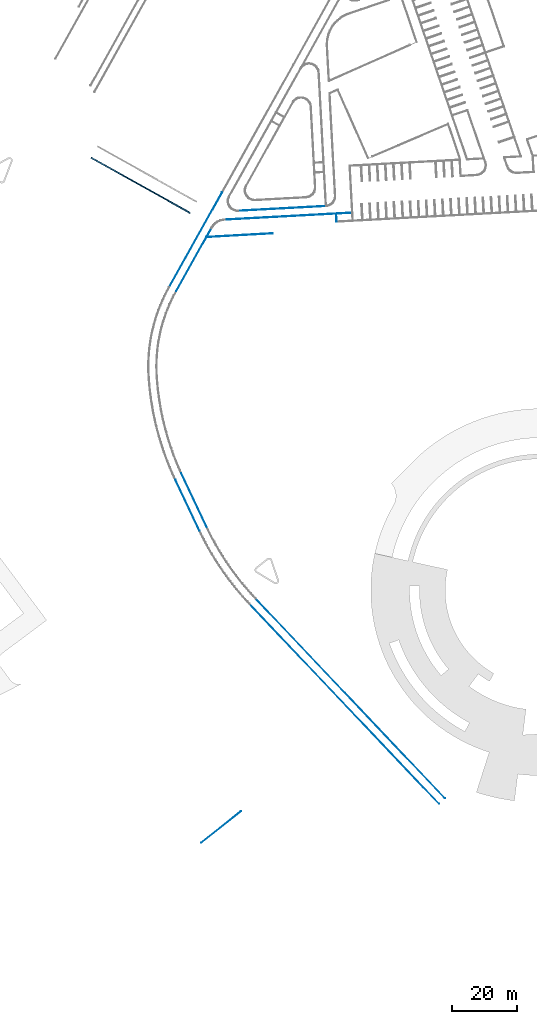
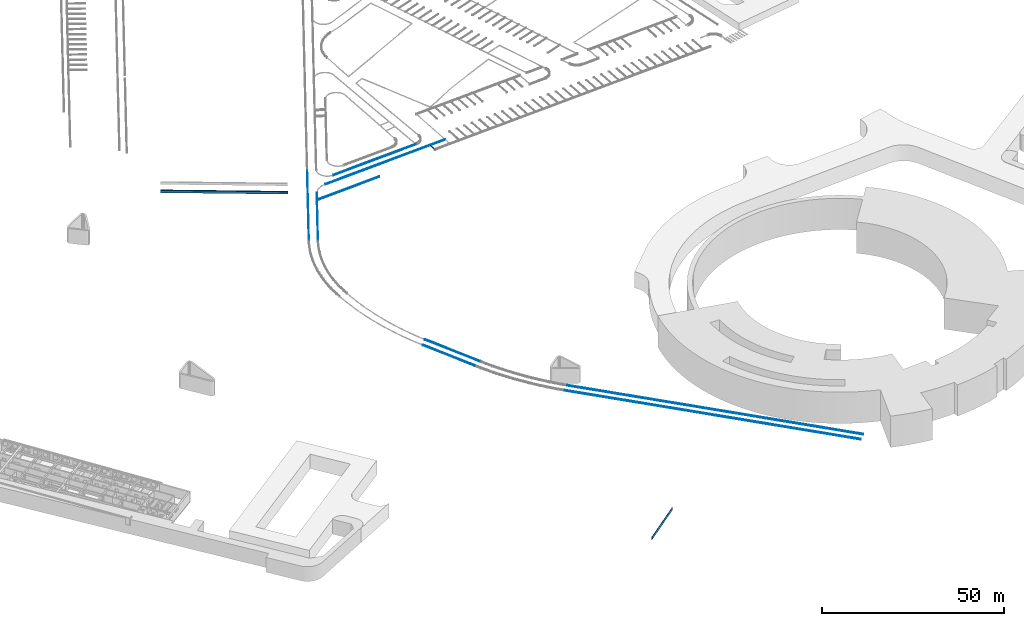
# One storey, part 2 of 112: 12 beams.
"""IFC2X3 building model written with IfcOpenShell, lengths in millimetres."""

from ifc_helpers import new_model, entity, si_unit, converted_unit, derived_unit, direction, frame, frame_2d, origin, origin_2d_with_axis, place, context, subcontext, project, spatial, polyline, rectangle, outline, extrude, material, type_object, element, save


model = new_model("IFC2X3")

# Units and contexts
model_context = context("Model", 3, precision=0.01, world=origin(), true_north=direction((6.123031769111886e-17, 1.0)))
body_context = subcontext(model_context, "Body", "Model", "MODEL_VIEW")
ifc_project = project(units=[si_unit("LENGTHUNIT", "METRE", prefix="MILLI"), si_unit("AREAUNIT", "SQUARE_METRE"), si_unit("VOLUMEUNIT", "CUBIC_METRE"), converted_unit("PLANEANGLEUNIT", "DEGREE", entity("IfcRatioMeasure", 0.017453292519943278), si_unit("PLANEANGLEUNIT", "RADIAN"), dimensions=[0, 0, 0, 0, 0, 0, 0]), si_unit("MASSUNIT", "GRAM", prefix="KILO"), derived_unit("MASSDENSITYUNIT", [(si_unit("MASSUNIT", "GRAM", prefix="KILO"), 1), (si_unit("LENGTHUNIT", "METRE"), -3)]), derived_unit("MOMENTOFINERTIAUNIT", [(si_unit("LENGTHUNIT", "METRE"), 4)]), si_unit("TIMEUNIT", "SECOND"), si_unit("FREQUENCYUNIT", "HERTZ"), si_unit("THERMODYNAMICTEMPERATUREUNIT", "DEGREE_CELSIUS"), derived_unit("THERMALTRANSMITTANCEUNIT", [(si_unit("MASSUNIT", "GRAM", prefix="KILO"), 1), (si_unit("THERMODYNAMICTEMPERATUREUNIT", "KELVIN"), -1), (si_unit("TIMEUNIT", "SECOND"), -3)]), derived_unit("THERMALCONDUCTANCEUNIT", [(si_unit("MASSUNIT", "GRAM", prefix="KILO"), 1), (si_unit("LENGTHUNIT", "METRE"), 1), (si_unit("THERMODYNAMICTEMPERATUREUNIT", "KELVIN"), -1), (si_unit("TIMEUNIT", "SECOND"), -3)]), derived_unit("VOLUMETRICFLOWRATEUNIT", [(si_unit("LENGTHUNIT", "METRE"), 3), (si_unit("TIMEUNIT", "SECOND"), -1)]), derived_unit("MASSFLOWRATEUNIT", [(si_unit("MASSUNIT", "GRAM", prefix="KILO"), 1), (si_unit("TIMEUNIT", "SECOND"), -1)]), derived_unit("ROTATIONALFREQUENCYUNIT", [(si_unit("TIMEUNIT", "SECOND"), -1)]), si_unit("ELECTRICCURRENTUNIT", "AMPERE"), si_unit("ELECTRICVOLTAGEUNIT", "VOLT"), si_unit("POWERUNIT", "WATT"), converted_unit("FORCEUNIT", "KIP", entity("IfcRatioMeasure", 2.088543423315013e-05), si_unit("FORCEUNIT", "NEWTON"), dimensions=[1, 1, -2, 0, 0, 0, 0]), si_unit("ILLUMINANCEUNIT", "LUX"), si_unit("LUMINOUSFLUXUNIT", "LUMEN"), si_unit("LUMINOUSINTENSITYUNIT", "CANDELA"), derived_unit("USERDEFINED", [(si_unit("MASSUNIT", "GRAM", prefix="KILO"), -1), (si_unit("LENGTHUNIT", "METRE"), -2), (si_unit("TIMEUNIT", "SECOND"), 3), (si_unit("LUMINOUSFLUXUNIT", "LUMEN"), 1)]), derived_unit("USERDEFINED", [(si_unit("MASSUNIT", "GRAM", prefix="KILO"), 1), (si_unit("LENGTHUNIT", "METRE"), 3), (si_unit("TIMEUNIT", "SECOND"), -3), (si_unit("ELECTRICCURRENTUNIT", "AMPERE"), -2)]), derived_unit("USERDEFINED", [(si_unit("LENGTHUNIT", "METRE"), 2), (si_unit("TIMEUNIT", "SECOND"), -2)]), derived_unit("SOUNDPOWERUNIT", [(si_unit("MASSUNIT", "GRAM", prefix="KILO"), 1), (si_unit("LENGTHUNIT", "METRE"), 2), (si_unit("TIMEUNIT", "SECOND"), -3)]), derived_unit("SOUNDPRESSUREUNIT", [(si_unit("MASSUNIT", "GRAM", prefix="KILO"), 1), (si_unit("LENGTHUNIT", "METRE"), -1), (si_unit("TIMEUNIT", "SECOND"), -2)]), derived_unit("LINEARVELOCITYUNIT", [(si_unit("LENGTHUNIT", "METRE"), 1), (si_unit("TIMEUNIT", "SECOND"), -1)]), si_unit("PRESSUREUNIT", "PASCAL"), derived_unit("USERDEFINED", [(si_unit("LENGTHUNIT", "METRE"), -2), (si_unit("MASSUNIT", "GRAM", prefix="KILO"), 1), (si_unit("TIMEUNIT", "SECOND"), -2)]), derived_unit("LINEARFORCEUNIT", [(si_unit("MASSUNIT", "GRAM", prefix="KILO"), 1), (si_unit("LENGTHUNIT", "METRE"), 1), (si_unit("TIMEUNIT", "SECOND"), -2), (si_unit("LENGTHUNIT", "METRE"), -1)]), derived_unit("PLANARFORCEUNIT", [(si_unit("MASSUNIT", "GRAM", prefix="KILO"), 1), (si_unit("LENGTHUNIT", "METRE"), 1), (si_unit("TIMEUNIT", "SECOND"), -2), (si_unit("LENGTHUNIT", "METRE"), -2)]), derived_unit("SPECIFICHEATCAPACITYUNIT", [(si_unit("LENGTHUNIT", "METRE"), 2), (si_unit("TIMEUNIT", "SECOND"), -2), (si_unit("THERMODYNAMICTEMPERATUREUNIT", "KELVIN"), -1)]), derived_unit("VAPORPERMEABILITYUNIT", [(si_unit("TIMEUNIT", "SECOND"), 1), (si_unit("LENGTHUNIT", "METRE"), -1)]), derived_unit("DYNAMICVISCOSITYUNIT", [(si_unit("MASSUNIT", "GRAM", prefix="KILO"), 1), (si_unit("LENGTHUNIT", "METRE"), -1), (si_unit("TIMEUNIT", "SECOND"), -1)]), derived_unit("THERMALEXPANSIONCOEFFICIENTUNIT", [(si_unit("THERMODYNAMICTEMPERATUREUNIT", "KELVIN"), -1)])], contexts=[model_context])

# Site, building, storey
site_placement = place(None, frame((0.0, 0.0, 0.0), z_axis=(0.0, 0.0, 1.0), x_axis=(0.8191520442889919, 0.5735764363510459, 0.0)))
site = spatial("IfcSite", under=ifc_project, at=site_placement, Name="Default", CompositionType="ELEMENT")
building_placement = place(site_placement, origin())
building = spatial("IfcBuilding", under=site, at=building_placement, CompositionType="ELEMENT")
storey_placement = place(building_placement, frame((0.0, 0.0, -3600.0)))
storey = spatial("IfcBuildingStorey", under=building, at=storey_placement, Name="0.UG -3.60", CompositionType="ELEMENT", Elevation=-3600.0000000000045)

# Beams
ifc_material_1 = material(Name="Paveta_bordur")
beam_type_1 = type_object("IfcBeamType", Name="Beam-179 246836:Beam-179 246836", PredefinedType="NOTDEFINED")
beam_1_placement = place(storey_placement, origin())
element("IfcBeam", 1, at=beam_1_placement, inside=storey, type_object=beam_type_1, material=ifc_material_1, Name="Beam-179", ObjectType="Beam-179 246836:Beam-179 246836", context=body_context, shape_type="SweptSolid", body=[
    extrude(rectangle(XDim=250.00000000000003, YDim=99.99999999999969, at=frame_2d((0.0, -8.71835936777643e-12), x_axis=(1.0, 0.0))), frame((-116063.43866197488, 7507.6375714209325, 1985.0), z_axis=(0.1679512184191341, 0.9857953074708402, 0.0), x_axis=(0.0, 0.0, -1.0)), (0.0, 0.0, 1.0), 17376.35405134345),
])
ifc_material_2 = material(Name="Paint-01")
beam_type_2 = type_object("IfcBeamType", Name="Beam-180 246833:Beam-180 246833", PredefinedType="NOTDEFINED")
beam_2_placement = place(storey_placement, origin())
element("IfcBeam", 2, at=beam_2_placement, inside=storey, type_object=beam_type_2, material=ifc_material_2, Name="Beam-180", ObjectType="Beam-180 246833:Beam-180 246833", context=body_context, shape_type="SweptSolid", body=[
    extrude(outline(polyline([(-42469.34000917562, -125.0), (42470.84109260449, -125.0), (42469.34000917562, 125.0), (-42470.841092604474, 125.0), (-42469.34000917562, -125.0)])), frame((-110147.71107057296, -61927.1835847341, 2239.9977467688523), z_axis=(0.9891019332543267, 0.14723235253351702, 0.0), x_axis=(0.14722969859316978, -0.9890841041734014, 0.006004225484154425)), (0.0, 0.0, 1.0), 100.00000000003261),
])
beam_type_3 = type_object("IfcBeamType", Name="Beam-170 237551:Beam-170 237551", PredefinedType="NOTDEFINED")
beam_3_placement = place(storey_placement, origin())
element("IfcBeam", 3, at=beam_3_placement, inside=storey, type_object=beam_type_3, material=ifc_material_1, Name="Beam-170", ObjectType="Beam-170 237551:Beam-170 237551", context=body_context, shape_type="SweptSolid", body=[
    extrude(rectangle(XDim=1000.0000000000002, YDim=99.99999999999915, at=frame_2d((0.0, -5.684341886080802e-14), x_axis=(0.0, 1.0))), frame((-170811.0, -71683.0, 2110.0), z_axis=(0.9981911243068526, 0.06012054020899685, 0.0), x_axis=(0.06012054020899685, -0.9981911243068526, 0.0)), (0.0, 0.0, 1.0), 15612.317182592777),
])
beam_type_4 = type_object("IfcBeamType", Name="Beam-140 237435:Beam-140 237435", PredefinedType="NOTDEFINED")
beam_4_placement = place(storey_placement, origin())
element("IfcBeam", 4, at=beam_4_placement, inside=storey, type_object=beam_type_4, material=ifc_material_1, Name="Beam-140", ObjectType="Beam-140 237435:Beam-140 237435", context=body_context, shape_type="SweptSolid", body=[
    extrude(rectangle(XDim=250.00000000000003, YDim=100.00000000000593, at=frame_2d((0.0, 0.0), x_axis=(0.0, 1.0))), frame((-49717.04287627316, 81473.73201606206, 1985.0), z_axis=(0.849040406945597, -0.5283279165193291, 0.0), x_axis=(-0.5283279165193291, -0.849040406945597, 0.0)), (0.0, 0.0, 1.0), 27156.592524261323),
])
beam_type_5 = type_object("IfcBeamType", Name="Beam-176 237248:Beam-176 237248", PredefinedType="NOTDEFINED")
beam_5_placement = place(storey_placement, origin())
element("IfcBeam", 5, at=beam_5_placement, inside=storey, type_object=beam_type_5, material=ifc_material_1, Name="Beam-176", ObjectType="Beam-176 237248:Beam-176 237248", context=body_context, shape_type="SweptSolid", body=[
    extrude(rectangle(XDim=250.00000000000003, YDim=100.00000000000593, at=frame_2d((0.0, 0.0), x_axis=(0.0, 1.0))), frame((-54654.68674220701, 81601.75312708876, 1985.0), z_axis=(0.849040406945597, -0.5283279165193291, 0.0), x_axis=(-0.5283279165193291, -0.849040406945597, 0.0)), (0.0, 0.0, 1.0), 39416.48880840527),
])
beam_type_6 = type_object("IfcBeamType", Name="Beam-175 236903:Beam-175 236903", PredefinedType="NOTDEFINED")
beam_6_placement = place(storey_placement, origin())
element("IfcBeam", 6, at=beam_6_placement, inside=storey, type_object=beam_type_6, material=ifc_material_1, Name="Beam-175", ObjectType="Beam-175 236903:Beam-175 236903", context=body_context, shape_type="SweptSolid", body=[
    extrude(rectangle(XDim=250.00000000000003, YDim=99.99999999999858, at=frame_2d((3.673505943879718e-12, 0.0), x_axis=(0.0, 1.0))), frame((-26754.516869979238, 61295.96028366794, 1985.0), z_axis=(0.5283279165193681, 0.8490404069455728, 0.0), x_axis=(0.8490404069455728, -0.5283279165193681, 0.0)), (0.0, 0.0, 1.0), 2499.9999999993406),
])
beam_type_7 = type_object("IfcBeamType", Name="Beam-177 228364:Beam-177 228364", PredefinedType="NOTDEFINED")
beam_7_placement = place(storey_placement, origin())
element("IfcBeam", 7, at=beam_7_placement, inside=storey, type_object=beam_type_7, material=ifc_material_1, Name="Beam-177", ObjectType="Beam-177 228364:Beam-177 228364", context=body_context, shape_type="SweptSolid", body=[
    extrude(rectangle(XDim=250.00000000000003, YDim=100.00000000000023, at=origin_2d_with_axis()), frame((-80683.62081520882, 74382.27101122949, 1985.0), z_axis=(0.9003410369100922, 0.4351850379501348, 0.0), x_axis=(0.0, 0.0, -1.0)), (0.0, 0.0, 1.0), 33509.62540018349),
])
beam_type_8 = type_object("IfcBeamType", Name="Beam-176 228032:Beam-176 228032", PredefinedType="NOTDEFINED")
beam_8_placement = place(storey_placement, origin())
element("IfcBeam", 8, at=beam_8_placement, inside=storey, type_object=beam_type_8, material=ifc_material_1, Name="Beam-176", ObjectType="Beam-176 228032:Beam-176 228032", context=body_context, shape_type="SweptSolid", body=[
    extrude(rectangle(XDim=250.00000000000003, YDim=100.00000000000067, at=frame_2d((0.0, 0.0), x_axis=(0.0, 1.0))), frame((-62389.147878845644, 80448.34699075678, 1985.0), z_axis=(0.8500928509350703, -0.5266328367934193, 0.0), x_axis=(-0.5266328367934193, -0.8500928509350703, 0.0)), (0.0, 0.0, 1.0), 20471.391139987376),
])
beam_type_9 = type_object("IfcBeamType", Name="Beam-177 220075:Beam-177 220075", PredefinedType="NOTDEFINED")
beam_9_placement = place(storey_placement, origin())
element("IfcBeam", 9, at=beam_9_placement, inside=storey, type_object=beam_type_9, material=ifc_material_1, Name="Beam-177", ObjectType="Beam-177 220075:Beam-177 220075", context=body_context, shape_type="SweptSolid", body=[
    extrude(rectangle(XDim=250.00000000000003, YDim=100.00000000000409, at=frame_2d((0.0, -7.666756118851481e-12), x_axis=(1.0, 0.0))), frame((-79595.65159675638, 72131.42162051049, 1985.0), z_axis=(0.9003397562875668, 0.4351876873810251, 0.0), x_axis=(0.0, 0.0, -1.0)), (0.0, 0.0, 1.0), 22350.88109184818),
])
beam_type_10 = type_object("IfcBeamType", Name="Beam-179 220069:Beam-179 220069", PredefinedType="NOTDEFINED")
beam_10_placement = place(storey_placement, origin())
element("IfcBeam", 10, at=beam_10_placement, inside=storey, type_object=beam_type_10, material=ifc_material_1, Name="Beam-179", ObjectType="Beam-179 220069:Beam-179 220069", context=body_context, shape_type="SweptSolid", body=[
    extrude(rectangle(XDim=250.00000000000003, YDim=100.00000000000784, at=origin_2d_with_axis()), frame((-113598.94960770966, 7087.764136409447, 1985.0), z_axis=(0.16828362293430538, 0.9857386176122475, 0.0), x_axis=(0.0, 0.0, -1.0)), (0.0, 0.0, 1.0), 18400.33686685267),
])
beam_type_11 = type_object("IfcBeamType", Name="Beam-180 208270:Beam-180 208270", PredefinedType="NOTDEFINED")
beam_11_placement = place(storey_placement, origin())
element("IfcBeam", 11, at=beam_11_placement, inside=storey, type_object=beam_type_11, material=ifc_material_2, Name="Beam-180", ObjectType="Beam-180 208270:Beam-180 208270", context=body_context, shape_type="SweptSolid", body=[
    extrude(outline(polyline([(-42469.34000917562, -125.0), (42470.84109260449, -125.0), (42469.34000917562, 125.0), (-42470.841092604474, 125.0), (-42469.34000917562, -125.0)])), frame((-107674.95647693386, -61559.10109446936, 2239.9977467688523), z_axis=(0.9891019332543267, 0.14723235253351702, 0.0), x_axis=(0.14722969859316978, -0.9890841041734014, 0.006004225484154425)), (0.0, 0.0, 1.0), 100.00000000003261),
])
beam_type_12 = type_object("IfcBeamType", Name="Beam-149 181490:Beam-149 181490", PredefinedType="NOTDEFINED")
beam_12_placement = place(storey_placement, origin())
element("IfcBeam", 12, at=beam_12_placement, inside=storey, type_object=beam_type_12, material=ifc_material_2, Name="Beam-149", ObjectType="Beam-149 181490:Beam-149 181490", context=body_context, shape_type="SweptSolid", body=[
    extrude(outline(polyline([(-17514.423614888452, -400.0), (17495.430865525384, -400.0), (17514.423614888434, 400.0), (-17495.43086552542, 400.0), (-17514.423614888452, -400.0)])), frame((-70005.85438082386, 105089.37734887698, 2115.4522122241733), z_axis=(0.90033975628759, 0.43518768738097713, 0.0), x_axis=(0.43506509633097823, -0.9000861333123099, -0.023734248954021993)), (0.0, 0.0, 1.0), 373.99999999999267),
])

save(model, "model.ifc")
